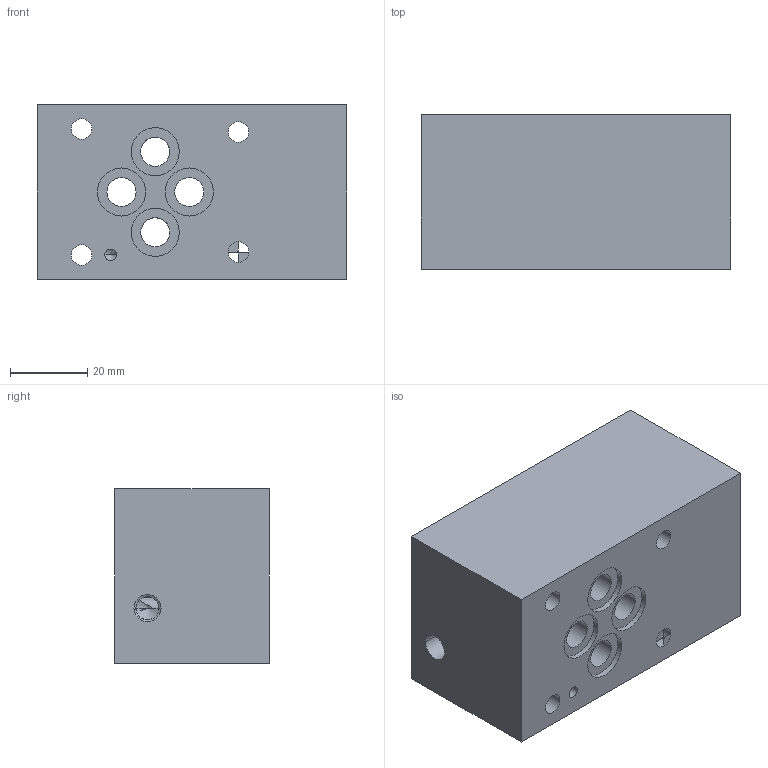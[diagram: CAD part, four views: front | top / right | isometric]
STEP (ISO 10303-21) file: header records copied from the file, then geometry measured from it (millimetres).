
FILE_DESCRIPTION((''),'2;1');
FILE_NAME('20693000','2023-10-12T',('l.soukupova'),(''),'PRO/ENGINEER BY PARAMETRIC TECHNOLOGY CORPORATION, 2015440','PRO/ENGINEER BY PARAMETRIC TECHNOLOGY CORPORATION, 2015440','');
FILE_SCHEMA(('AUTOMOTIVE_DESIGN { 1 0 10303 214 1 1 1 1 }'));
Length unit declared in the file: millimetre
Products named in the file (1): 20693000
Bounding box: 80 x 40 x 45 mm (x, y, z)
Volume: 120156.4 mm3; surface area: 27487 mm2
Topology: 1 solids, 4 shells, 87 faces, 372 edges, 343 vertices
Faces by surface type: cylinder 50, cone 22, plane 15
Entity records: 5869 total; most frequent: CARTESIAN_POINT 1222, DIRECTION 658, PRESENTATION_STYLE_ASSIGNMENT 436, ORIENTED_EDGE 434, STYLED_ITEM 404, CURVE_STYLE 401, AXIS2_PLACEMENT_3D 228, EDGE_CURVE 223
